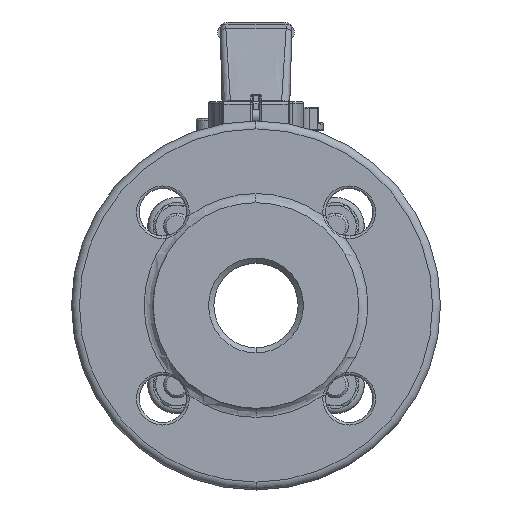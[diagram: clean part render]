
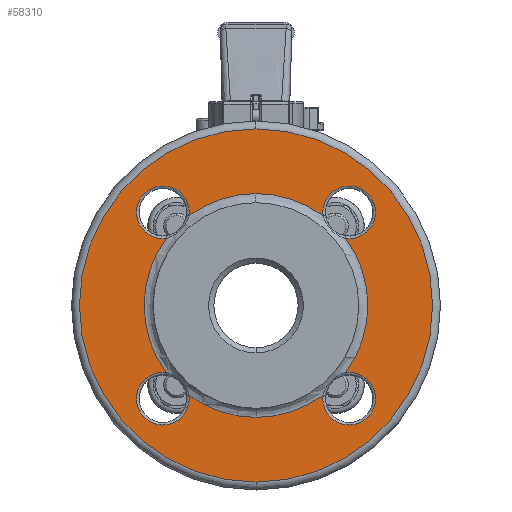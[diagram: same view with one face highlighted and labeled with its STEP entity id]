
A CAD part, left-side view. The second image highlights one B-rep face of the part: STEP entity #58310.
In plain terms, the highlighted planar face has unit normal (-1, 0, 0).
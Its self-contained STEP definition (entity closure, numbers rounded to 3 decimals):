
#655=CARTESIAN_POINT('',(-48.,0.,0.));
#656=DIRECTION('',(1.,0.,0.));
#657=DIRECTION('',(0.,0.801,-0.599));
#658=AXIS2_PLACEMENT_3D('',#655,#656,#657);
#660=CARTESIAN_POINT('',(-48.,0.,0.));
#661=DIRECTION('',(1.,0.,0.));
#662=DIRECTION('',(0.,0.,-1.));
#663=AXIS2_PLACEMENT_3D('',#660,#661,#662);
#665=CARTESIAN_POINT('',(-48.,0.,0.));
#666=DIRECTION('',(-1.,0.,0.));
#667=DIRECTION('',(0.,0.,-1.));
#668=AXIS2_PLACEMENT_3D('',#665,#666,#667);
#670=CARTESIAN_POINT('',(-48.,0.,0.));
#671=DIRECTION('',(-1.,0.,0.));
#672=DIRECTION('',(0.,-0.801,-0.599));
#673=AXIS2_PLACEMENT_3D('',#670,#671,#672);
#675=CARTESIAN_POINT('',(-48.,0.,0.));
#676=DIRECTION('',(-1.,0.,0.));
#677=DIRECTION('',(0.,-0.599,0.801));
#678=AXIS2_PLACEMENT_3D('',#675,#676,#677);
#680=CARTESIAN_POINT('',(-48.,0.,0.));
#681=DIRECTION('',(1.,0.,0.));
#682=DIRECTION('',(0.,0.599,0.801));
#683=AXIS2_PLACEMENT_3D('',#680,#681,#682);
#690=CARTESIAN_POINT('',(-48.,0.,0.));
#691=DIRECTION('',(1.,0.,0.));
#692=DIRECTION('',(0.,0.,-1.));
#693=AXIS2_PLACEMENT_3D('',#690,#691,#692);
#713=CARTESIAN_POINT('',(-48.,0.,0.));
#714=DIRECTION('',(1.,0.,0.));
#715=DIRECTION('',(0.,0.,1.));
#716=AXIS2_PLACEMENT_3D('',#713,#714,#715);
#46443=CARTESIAN_POINT('',(-48.,35.355,35.355));
#46444=DIRECTION('',(1.,0.,0.));
#46445=DIRECTION('',(0.,-0.136,-0.991));
#46446=AXIS2_PLACEMENT_3D('',#46443,#46444,#46445);
#46468=CARTESIAN_POINT('',(-48.,25.448,
33.994));
#46498=CARTESIAN_POINT('',(-48.,33.994,
25.448));
#46576=CARTESIAN_POINT('',(-48.,-35.355,35.355));
#46577=DIRECTION('',(1.,0.,0.));
#46578=DIRECTION('',(0.,0.991,-0.136));
#46579=AXIS2_PLACEMENT_3D('',#46576,#46577,#46578);
#46601=CARTESIAN_POINT('',(-48.,-33.994,
25.448));
#46631=CARTESIAN_POINT('',(-48.,-25.448,
33.994));
#46709=CARTESIAN_POINT('',(-48.,-25.448,
-33.994));
#46739=CARTESIAN_POINT('',(-48.,-33.994,
-25.448));
#46779=CARTESIAN_POINT('',(-48.,-35.355,-35.355));
#46780=DIRECTION('',(1.,0.,0.));
#46781=DIRECTION('',(0.,0.136,0.991));
#46782=AXIS2_PLACEMENT_3D('',#46779,#46780,#46781);
#46842=CARTESIAN_POINT('',(-48.,35.355,-35.355));
#46843=DIRECTION('',(1.,0.,0.));
#46844=DIRECTION('',(0.,-0.991,0.136));
#46845=AXIS2_PLACEMENT_3D('',#46842,#46843,#46844);
#46867=CARTESIAN_POINT('',(-48.,33.994,
-25.448));
#46897=CARTESIAN_POINT('',(-48.,25.448,
-33.994));
#46957=CARTESIAN_POINT('',(-48.,0.,-67.));
#46958=CARTESIAN_POINT('',(-48.,0.,67.));
#46959=VERTEX_POINT('',#46957);
#46960=VERTEX_POINT('',#46958);
#48550=VERTEX_POINT('',#46468);
#48551=VERTEX_POINT('',#46498);
#48566=VERTEX_POINT('',#46601);
#48567=VERTEX_POINT('',#46631);
#48579=VERTEX_POINT('',#46709);
#48580=VERTEX_POINT('',#46739);
#48599=VERTEX_POINT('',#46867);
#48600=VERTEX_POINT('',#46897);
#48612=CARTESIAN_POINT('',(-48.,0.,42.464));
#48613=VERTEX_POINT('',#48612);
#48614=CARTESIAN_POINT('',(-48.,0.,-42.464));
#48615=VERTEX_POINT('',#48614);
#58283=CARTESIAN_POINT('',(-48.,0.,0.));
#58284=DIRECTION('',(-1.,0.,0.));
#58285=DIRECTION('',(0.,0.,1.));
#58286=AXIS2_PLACEMENT_3D('',#58283,#58284,#58285);
#58287=PLANE('',#58286);
#58289=ORIENTED_EDGE('',*,*,#58288,.T.);
#58291=ORIENTED_EDGE('',*,*,#58290,.T.);
#58292=EDGE_LOOP('',(#58289,#58291));
#58293=FACE_OUTER_BOUND('',#58292,.F.);
#58295=ORIENTED_EDGE('',*,*,#58294,.F.);
#58296=ORIENTED_EDGE('',*,*,#58273,.F.);
#58298=ORIENTED_EDGE('',*,*,#58297,.F.);
#58299=ORIENTED_EDGE('',*,*,#58269,.F.);
#58300=ORIENTED_EDGE('',*,*,#58255,.T.);
#58302=ORIENTED_EDGE('',*,*,#58301,.F.);
#58303=ORIENTED_EDGE('',*,*,#58251,.T.);
#58305=ORIENTED_EDGE('',*,*,#58304,.F.);
#58306=ORIENTED_EDGE('',*,*,#58247,.T.);
#58307=ORIENTED_EDGE('',*,*,#58277,.F.);
#58308=EDGE_LOOP('',(#58295,#58296,#58298,#58299,#58300,#58302,#58303,#58305,
#58306,#58307));
#58309=FACE_BOUND('',#58308,.F.);
#58310=ADVANCED_FACE('',(#58293,#58309),#58287,.T.);
#659=CIRCLE('',#658,42.464);
#664=CIRCLE('',#663,42.464);
#669=CIRCLE('',#668,42.464);
#674=CIRCLE('',#673,42.464);
#679=CIRCLE('',#678,42.464);
#684=CIRCLE('',#683,42.464);
#694=CIRCLE('',#693,67.);
#717=CIRCLE('',#716,67.);
#46447=CIRCLE('',#46446,10.);
#46580=CIRCLE('',#46579,10.);
#46783=CIRCLE('',#46782,10.);
#46846=CIRCLE('',#46845,10.);
#58247=EDGE_CURVE('',#48567,#48613,#679,.T.);
#58251=EDGE_CURVE('',#48580,#48566,#674,.T.);
#58255=EDGE_CURVE('',#48615,#48579,#669,.T.);
#58269=EDGE_CURVE('',#48615,#48600,#664,.T.);
#58273=EDGE_CURVE('',#48599,#48551,#659,.T.);
#58277=EDGE_CURVE('',#48550,#48613,#684,.T.);
#58288=EDGE_CURVE('',#46959,#46960,#694,.T.);
#58290=EDGE_CURVE('',#46960,#46959,#717,.T.);
#58294=EDGE_CURVE('',#48551,#48550,#46447,.T.);
#58297=EDGE_CURVE('',#48600,#48599,#46846,.T.);
#58301=EDGE_CURVE('',#48580,#48579,#46783,.T.);
#58304=EDGE_CURVE('',#48567,#48566,#46580,.T.);
